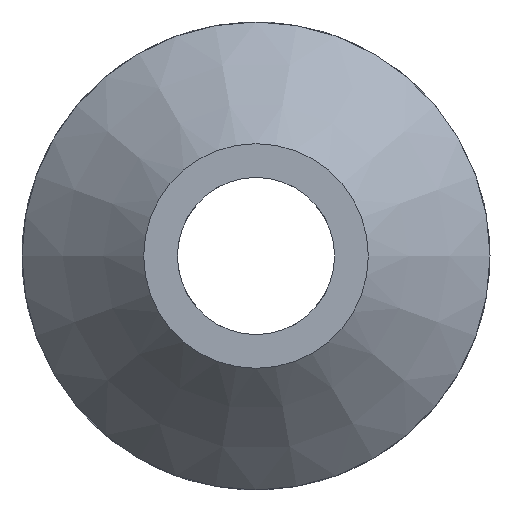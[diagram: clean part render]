
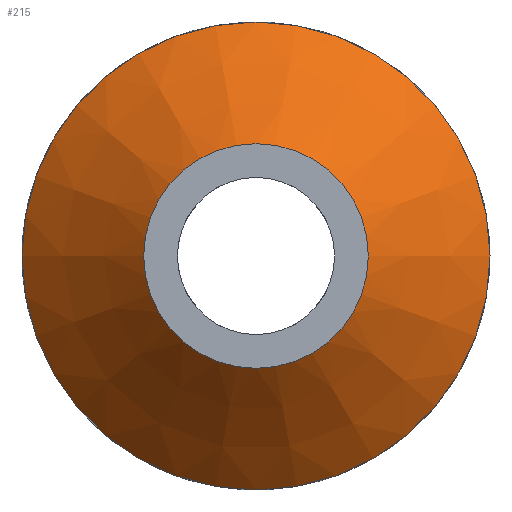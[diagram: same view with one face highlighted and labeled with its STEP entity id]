
A CAD part, left-side view. The second image highlights one B-rep face of the part: STEP entity #215.
In plain terms, the highlighted conical face has half-angle 45 degrees and reference radius 1.175 mm.
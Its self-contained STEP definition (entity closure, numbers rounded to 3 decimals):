
#13=CONICAL_SURFACE($,#241,1.175,45.);
#16=FACE_BOUND($,#53,.T.);
#38=FACE_OUTER_BOUND($,#52,.T.);
#52=EDGE_LOOP($,(#182));
#53=EDGE_LOOP($,(#183));
#67=CIRCLE($,#239,0.762);
#69=CIRCLE($,#242,1.588);
#112=VERTEX_POINT($,#422);
#114=VERTEX_POINT($,#427);
#139=EDGE_CURVE($,#112,#112,#67,.T.);
#141=EDGE_CURVE($,#114,#114,#69,.T.);
#182=ORIENTED_EDGE($,*,*,#141,.F.);
#183=ORIENTED_EDGE($,*,*,#139,.T.);
#215=ADVANCED_FACE($,(#38,#16),#13,.T.);
#239=AXIS2_PLACEMENT_3D($,#423,#295,#296);
#241=AXIS2_PLACEMENT_3D($,#426,#299,#300);
#242=AXIS2_PLACEMENT_3D($,#428,#301,#302);
#295=DIRECTION('center_axis',(1.,0.,0.));
#296=DIRECTION('ref_axis',(0.,1.,0.));
#299=DIRECTION('center_axis',(1.,0.,0.));
#300=DIRECTION('ref_axis',(0.,1.,0.));
#301=DIRECTION('center_axis',(1.,0.,0.));
#302=DIRECTION('ref_axis',(0.,1.,0.));
#422=CARTESIAN_POINT('',(3.175,0.762,0.));
#423=CARTESIAN_POINT('Origin',(3.175,0.,0.));
#426=CARTESIAN_POINT('Origin',(3.588,0.,0.));
#427=CARTESIAN_POINT('',(4.001,1.588,0.));
#428=CARTESIAN_POINT('Origin',(4.001,0.,0.));
